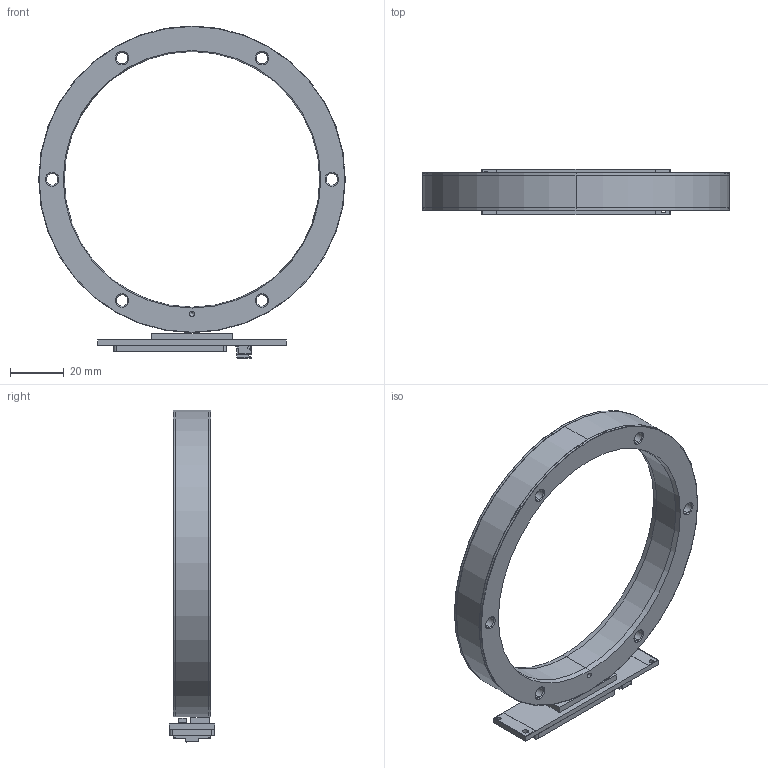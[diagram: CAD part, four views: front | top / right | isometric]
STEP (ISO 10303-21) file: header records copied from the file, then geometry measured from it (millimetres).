
FILE_DESCRIPTION (( 'STEP AP214' ), '1' );
FILE_NAME ('DBRxHx_SAR114_exposed.STEP', '2024-02-02T11:11:16', ( '' ), ( '' ), 'SwSTEP 2.0', 'SolidWorks 2022', '' );
FILE_SCHEMA (( 'AUTOMOTIVE_DESIGN' ));
Length unit declared in the file: millimetre
Products named in the file (1): DBRxHx_SAR114_exposed
Bounding box: 114 x 17 x 123.42 mm (x, y, z)
Volume: 42187.3 mm3; surface area: 20156.3 mm2
Topology: 1 solids, 2 shells, 1586 faces, 4413 edges, 2919 vertices
Faces by surface type: plane 1209, bspline 203, cylinder 126, cone 36, torus 8, sphere 4
Entity records: 78551 total; most frequent: CARTESIAN_POINT 25102, ORIENTED_EDGE 8804, DIRECTION 5158, EDGE_CURVE 4402, VERTEX_POINT 2918, B_SPLINE_CURVE_WITH_KNOTS 2158, VECTOR 2098, LINE 2098
